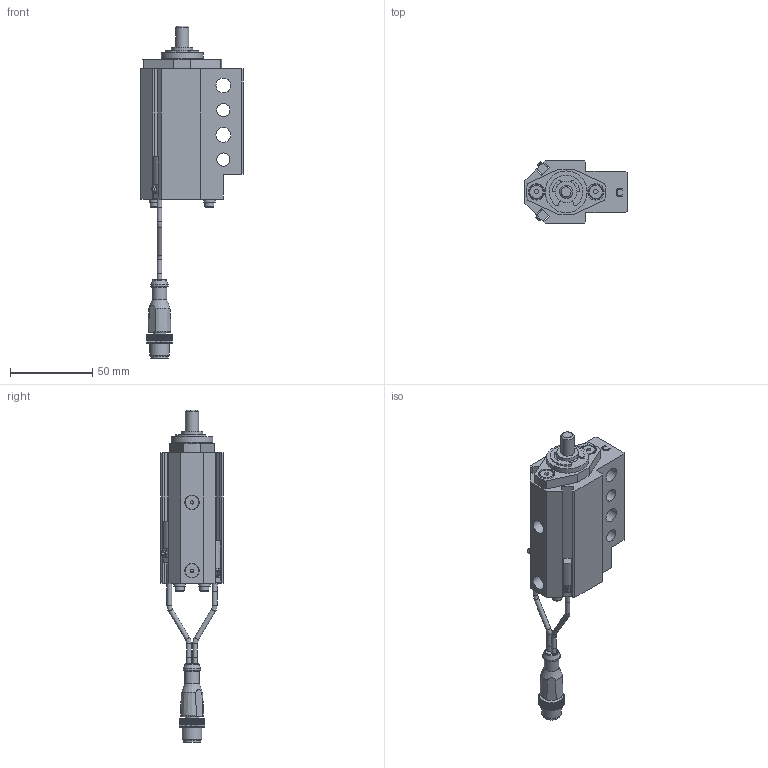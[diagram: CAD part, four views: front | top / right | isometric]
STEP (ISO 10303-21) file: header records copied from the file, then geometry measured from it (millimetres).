
FILE_DESCRIPTION(/* description */ ('NAAMS FLOATING MICRO PIN'),/* implementation_level */ '2;1');
FILE_NAME(/* name */ 'C:\Vault Workspace\CAD\Welker\Shot Pin\NMP\NMP080012ECNL3.stp',/* time_stamp */ '2021-01-28T11:36:18-05:00',/* author */ ('WELKER'),/* organization */ (''),/* preprocessor_version */ 'ST-DEVELOPER v18.1',/* originating_system */ 'Autodesk Inventor 2020',/* authorisation */ '');
FILE_SCHEMA (('AUTOMOTIVE_DESIGN { 1 0 10303 214 3 1 1 }'));
Length unit declared in the file: millimetre
Products named in the file (16): NMPL01; NMP L3 SWITCH; L3 Connector; L3 Sensor 1; L3 Sensor 2; L3 Sensor cable; L3 Sensor cable 2; M3X0.5-8 SHCS; NL3; NMPE06; NMPE03; NMPE04-DIA-LENGTH; 985432A218; NMPE01C-PORT; RMPE02; M5X5 SHOULDER
Assembly tree (22 placements, depth 3):
  NMPL01
    NMP L3 SWITCH
      L3 Connector
      L3 Sensor 1
      L3 Sensor 2
      L3 Sensor cable
      L3 Sensor cable 2
    M3X0.5-8 SHCS  x4
    NL3  x4
    NMPE06
    NMPE03
    NMPE04-DIA-LENGTH
    985432A218
    NMPE01C-PORT
    RMPE02
    M5X5 SHOULDER  x2
Bounding box: 62 x 38.1 x 201.52 mm (x, y, z)
Volume: 110028.8 mm3; surface area: 45181.7 mm2
Topology: 21 solids, 21 shells, 752 faces, 2037 edges, 1361 vertices
Faces by surface type: plane 546, cylinder 144, cone 31, bspline 18, torus 11, sphere 2
Full cylindrical faces by diameter (mm): 2 x2, 2.459 x4, 2.9 x10, 3 x5, 3.242 x2, 3.4 x4, 4 x2, 5 x6, 5.5 x4, 7 x4, 8 x3, 8.3 x2, 9 x5, 10 x3, 10.4 x1, 10.5 x1, 12 x1, 13 x3, 16 x2, 19.05 x3, 21 x1, 22.5 x1, 23.672 x1, 24 x1, 25.4 x1, 25.5 x1, 26.5 x1, 28.677 x1, 29.21 x1, 31.75 x2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
Entity records: 23031 total; most frequent: CARTESIAN_POINT 4361, ORIENTED_EDGE 3772, DIRECTION 3689, EDGE_CURVE 1886, LINE 1377, VECTOR 1377, VERTEX_POINT 1266, AXIS2_PLACEMENT_3D 1156
